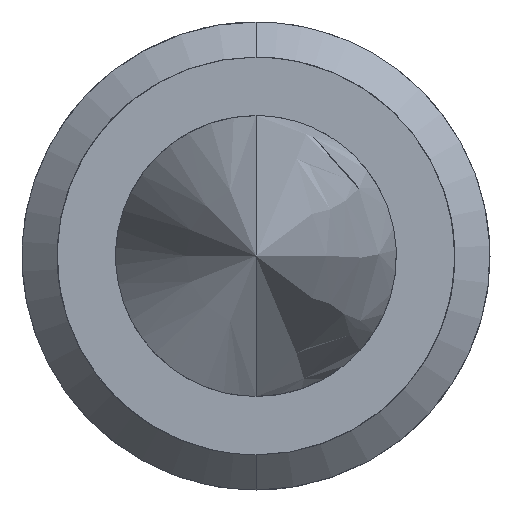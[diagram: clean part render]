
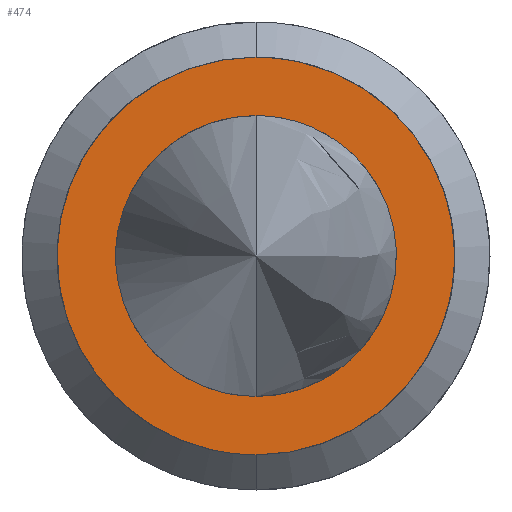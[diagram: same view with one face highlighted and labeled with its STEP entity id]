
A CAD part, left-side view. The second image highlights one B-rep face of the part: STEP entity #474.
In plain terms, the highlighted free-form (B-spline) face has degree [1, 1] with [2, 2] control points.
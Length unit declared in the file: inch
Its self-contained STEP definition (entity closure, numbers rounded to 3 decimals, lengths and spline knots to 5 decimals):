
#21 = EDGE_CURVE ( 'NONE', #184, #488, #772, .T. ) ;
#39 = CARTESIAN_POINT ( 'NONE',  ( 0.33, 0.00883, -0.01521 ) ) ;
#45 = CARTESIAN_POINT ( 'NONE',  ( 0.33, -0.00883, 0.01521 ) ) ;
#51 = CARTESIAN_POINT ( 'NONE',  ( 0.33, 0., -0.012 ) ) ;
#63 = CARTESIAN_POINT ( 'NONE',  ( 0.33, -0.00318, -0.012 ) ) ;
#92 = FACE_BOUND ( 'NONE', #426, .T. ) ;
#99 = CARTESIAN_POINT ( 'NONE',  ( 0.33, 0.00883, 0.01521 ) ) ;
#110 = CARTESIAN_POINT ( 'NONE',  ( 0.33, -0.01521, -0.00883 ) ) ;
#112 = CARTESIAN_POINT ( 'NONE',  ( 0.33, -0.01074, -0.00623 ) ) ;
#118 = CARTESIAN_POINT ( 'NONE',  ( 0.33, -0.00451, 0.017 ) ) ;
#123 = CARTESIAN_POINT ( 'NONE',  ( 0.33, -0.00623, -0.01074 ) ) ;
#131 = ORIENTED_EDGE ( 'NONE', *, *, #217, .T. ) ;
#154 = FACE_OUTER_BOUND ( 'NONE', #247, .T. ) ;
#155 = EDGE_CURVE ( 'NONE', #689, #783, #577, .T. ) ;
#157 = CARTESIAN_POINT ( 'NONE',  ( 0.33, -0.0172, -0.0172 ) ) ;
#162 = CARTESIAN_POINT ( 'NONE',  ( 0.33, -0.017, -0.00451 ) ) ;
#163 = CARTESIAN_POINT ( 'NONE',  ( 0.33, 0.01521, -0.00883 ) ) ;
#166 = CARTESIAN_POINT ( 'NONE',  ( 0.33, -0.01074, 0.00623 ) ) ;
#169 = CARTESIAN_POINT ( 'NONE',  ( 0.33, 0.00623, 0.01074 ) ) ;
#174 = CARTESIAN_POINT ( 'NONE',  ( 0.33, 0.00318, 0.012 ) ) ;
#177 = CARTESIAN_POINT ( 'NONE',  ( 0.33, 0., 0.012 ) ) ;
#184 = VERTEX_POINT ( 'NONE', #531 ) ;
#206 = CARTESIAN_POINT ( 'NONE',  ( 0.33, 0.0172, 0.0172 ) ) ;
#210 = B_SPLINE_CURVE_WITH_KNOTS ( 'NONE', 3,
 ( #550, #779, #368, #433, #722, #309, #481, #169, #174, #177 ),
 .UNSPECIFIED., .F., .F.,
 ( 4, 2, 2, 2, 4 ),
 ( 0., 0.7854, 1.5708, 2.35619, 3.14159 ),
 .UNSPECIFIED. ) ;
#216 = CARTESIAN_POINT ( 'NONE',  ( 0.33, 0., -0.017 ) ) ;
#217 = EDGE_CURVE ( 'NONE', #783, #689, #210, .T. ) ;
#245 = B_SPLINE_CURVE_WITH_KNOTS ( 'NONE', 3,
 ( #593, #475, #357, #110, #162, #589, #781, #45, #118, #649 ),
 .UNSPECIFIED., .F., .F.,
 ( 4, 2, 2, 2, 4 ),
 ( 0., 0.7854, 1.5708, 2.35619, 3.14159 ),
 .UNSPECIFIED. ) ;
#247 = EDGE_LOOP ( 'NONE', ( #437, #706 ) ) ;
#261 = CARTESIAN_POINT ( 'NONE',  ( 0.33, 0., 0.012 ) ) ;
#277 = CARTESIAN_POINT ( 'NONE',  ( 0.33, 0., -0.017 ) ) ;
#309 = CARTESIAN_POINT ( 'NONE',  ( 0.33, 0.012, 0.00318 ) ) ;
#341 = CARTESIAN_POINT ( 'NONE',  ( 0.33, 0.00451, -0.017 ) ) ;
#356 = CARTESIAN_POINT ( 'NONE',  ( 0.33, -0.00318, 0.012 ) ) ;
#357 = CARTESIAN_POINT ( 'NONE',  ( 0.33, -0.00883, -0.01521 ) ) ;
#368 = CARTESIAN_POINT ( 'NONE',  ( 0.33, 0.00623, -0.01074 ) ) ;
#395 = CARTESIAN_POINT ( 'NONE',  ( 0.33, 0.0172, -0.0172 ) ) ;
#401 = CARTESIAN_POINT ( 'NONE',  ( 0.33, -0.0172, 0.0172 ) ) ;
#412 = CARTESIAN_POINT ( 'NONE',  ( 0.33, 0., 0.012 ) ) ;
#426 = EDGE_LOOP ( 'NONE', ( #131, #509 ) ) ;
#433 = CARTESIAN_POINT ( 'NONE',  ( 0.33, 0.01074, -0.00623 ) ) ;
#437 = ORIENTED_EDGE ( 'NONE', *, *, #21, .T. ) ;
#473 = CARTESIAN_POINT ( 'NONE',  ( 0.33, 0., -0.012 ) ) ;
#474 = ADVANCED_FACE ( 'NONE', ( #92, #154 ), #596, .T. ) ;
#475 = CARTESIAN_POINT ( 'NONE',  ( 0.33, -0.00451, -0.017 ) ) ;
#481 = CARTESIAN_POINT ( 'NONE',  ( 0.33, 0.01074, 0.00623 ) ) ;
#488 = VERTEX_POINT ( 'NONE', #277 ) ;
#509 = ORIENTED_EDGE ( 'NONE', *, *, #155, .T. ) ;
#526 = CARTESIAN_POINT ( 'NONE',  ( 0.33, 0.017, 0.00451 ) ) ;
#531 = CARTESIAN_POINT ( 'NONE',  ( 0.33, 0., 0.017 ) ) ;
#534 = EDGE_CURVE ( 'NONE', #488, #184, #245, .T. ) ;
#550 = CARTESIAN_POINT ( 'NONE',  ( 0.33, 0., -0.012 ) ) ;
#577 = B_SPLINE_CURVE_WITH_KNOTS ( 'NONE', 3,
 ( #412, #356, #724, #166, #713, #650, #112, #123, #63, #473 ),
 .UNSPECIFIED., .F., .F.,
 ( 4, 2, 2, 2, 4 ),
 ( 0., 0.7854, 1.5708, 2.35619, 3.14159 ),
 .UNSPECIFIED. ) ;
#589 = CARTESIAN_POINT ( 'NONE',  ( 0.33, -0.017, 0.00451 ) ) ;
#593 = CARTESIAN_POINT ( 'NONE',  ( 0.33, 0., -0.017 ) ) ;
#596 = B_SPLINE_SURFACE_WITH_KNOTS ( 'NONE', 1, 1, ( 
 ( #157, #395 ),
 ( #401, #206 ) ),
 .UNSPECIFIED., .F., .F., .F.,
 ( 2, 2 ),
 ( 2, 2 ),
 ( 0., 1. ),
 ( 0., 1. ),
 .UNSPECIFIED. ) ;
#640 = CARTESIAN_POINT ( 'NONE',  ( 0.33, 0.00451, 0.017 ) ) ;
#646 = CARTESIAN_POINT ( 'NONE',  ( 0.33, 0.01521, 0.00883 ) ) ;
#649 = CARTESIAN_POINT ( 'NONE',  ( 0.33, 0., 0.017 ) ) ;
#650 = CARTESIAN_POINT ( 'NONE',  ( 0.33, -0.012, -0.00318 ) ) ;
#689 = VERTEX_POINT ( 'NONE', #261 ) ;
#701 = CARTESIAN_POINT ( 'NONE',  ( 0.33, 0.017, -0.00451 ) ) ;
#705 = CARTESIAN_POINT ( 'NONE',  ( 0.33, 0., 0.017 ) ) ;
#706 = ORIENTED_EDGE ( 'NONE', *, *, #534, .T. ) ;
#713 = CARTESIAN_POINT ( 'NONE',  ( 0.33, -0.012, 0.00318 ) ) ;
#722 = CARTESIAN_POINT ( 'NONE',  ( 0.33, 0.012, -0.00318 ) ) ;
#724 = CARTESIAN_POINT ( 'NONE',  ( 0.33, -0.00623, 0.01074 ) ) ;
#772 = B_SPLINE_CURVE_WITH_KNOTS ( 'NONE', 3,
 ( #705, #640, #99, #646, #526, #701, #163, #39, #341, #216 ),
 .UNSPECIFIED., .F., .F.,
 ( 4, 2, 2, 2, 4 ),
 ( 0., 0.7854, 1.5708, 2.35619, 3.14159 ),
 .UNSPECIFIED. ) ;
#779 = CARTESIAN_POINT ( 'NONE',  ( 0.33, 0.00318, -0.012 ) ) ;
#781 = CARTESIAN_POINT ( 'NONE',  ( 0.33, -0.01521, 0.00883 ) ) ;
#783 = VERTEX_POINT ( 'NONE', #51 ) ;
